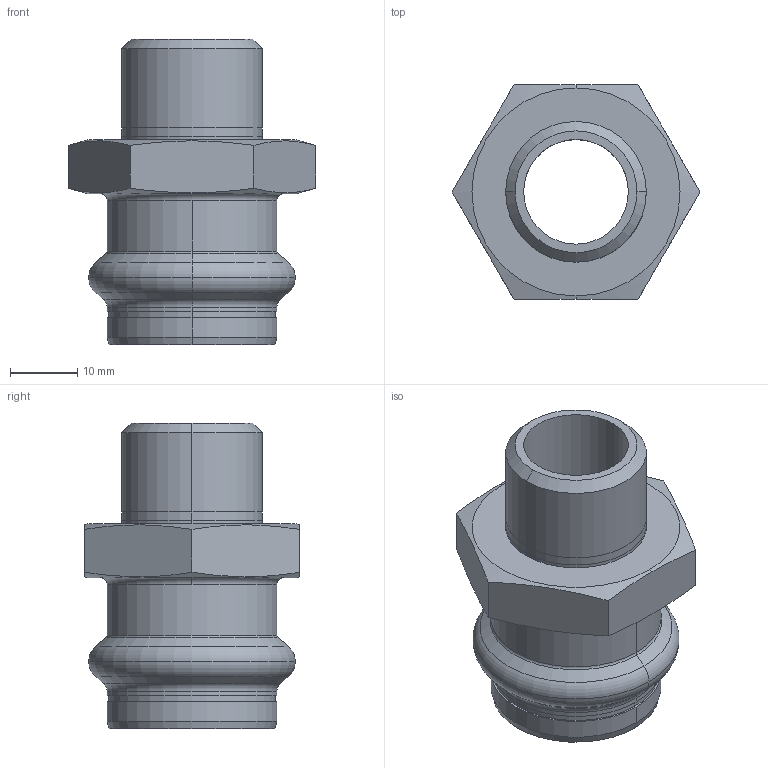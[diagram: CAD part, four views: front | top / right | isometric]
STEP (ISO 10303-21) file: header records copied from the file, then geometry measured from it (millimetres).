
FILE_DESCRIPTION(('CoCreate Modeling STEP Export'),'2;1');
FILE_NAME('8243GVW2212.stp','2013-03-05T10:33:59',(''),(''),'CoCreate Modeling STEP processor for AP214 (Solid Model)','CoCreate Modeling 17.00A 17-Jun-2010 (C) Parametric Technology GmbH','');
FILE_SCHEMA(('AUTOMOTIVE_DESIGN { 1 0 10303 214 1 1 1 1 }'));
Length unit declared in the file: millimetre
Products named in the file (1): 8243GVW2212
Bounding box: 36.95 x 32 x 45.5 mm (x, y, z)
Volume: 11196.9 mm3; surface area: 8004.1 mm2
Topology: 1 solids, 1 shells, 62 faces, 142 edges, 88 vertices
Faces by surface type: cylinder 22, cone 16, plane 14, torus 10
Entity records: 2216 total; most frequent: CARTESIAN_POINT 963, ORIENTED_EDGE 284, DIRECTION 210, EDGE_CURVE 142, VERTEX_POINT 88, AXIS2_PLACEMENT_3D 83, EDGE_LOOP 70, FACE_OUTER_BOUND 62
